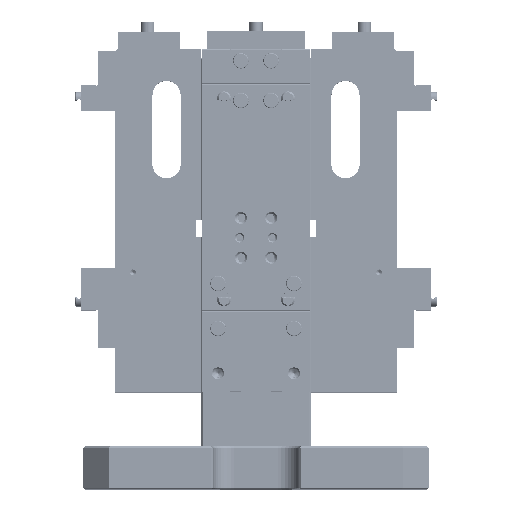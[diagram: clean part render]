
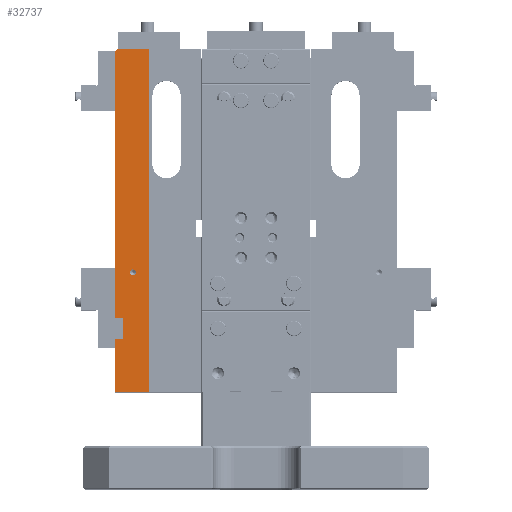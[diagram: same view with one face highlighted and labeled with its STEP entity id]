
A CAD part, top view. The second image highlights one B-rep face of the part: STEP entity #32737.
In plain terms, the highlighted planar face has unit normal (0, 0, 1).
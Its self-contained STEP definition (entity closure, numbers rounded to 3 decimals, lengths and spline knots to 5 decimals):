
#3982=DIRECTION('',(0.,-1.,0.));
#3983=VECTOR('',#3982,0.398);
#3984=CARTESIAN_POINT('',(0.0755,0.5105,-0.137));
#3985=LINE('',#3984,#3983);
#3994=CARTESIAN_POINT('',(0.0575,0.2515,-0.137));
#3995=DIRECTION('',(0.,0.,-1.));
#3996=DIRECTION('',(1.,0.,0.));
#3997=AXIS2_PLACEMENT_3D('',#3994,#3995,#3996);
#3999=CARTESIAN_POINT('',(0.0575,0.2515,-0.137));
#4000=DIRECTION('',(0.,0.,-1.));
#4001=DIRECTION('',(-1.,0.,0.));
#4002=AXIS2_PLACEMENT_3D('',#3999,#4000,#4001);
#4004=DIRECTION('',(1.,0.,0.));
#4005=VECTOR('',#4004,0.01);
#4006=CARTESIAN_POINT('',(0.0365,0.1985,-0.137));
#4007=LINE('',#4006,#4005);
#4008=DIRECTION('',(0.,-1.,0.));
#4009=VECTOR('',#4008,0.3085);
#4010=CARTESIAN_POINT('',(0.0365,0.507,-0.137));
#4011=LINE('',#4010,#4009);
#4012=DIRECTION('',(-0.707,-0.707,0.));
#4013=VECTOR('',#4012,0.00495);
#4014=CARTESIAN_POINT('',(0.04,0.5105,-0.137));
#4015=LINE('',#4014,#4013);
#4016=DIRECTION('',(-1.,0.,0.));
#4017=VECTOR('',#4016,0.0355);
#4018=CARTESIAN_POINT('',(0.0755,0.5105,-0.137));
#4019=LINE('',#4018,#4017);
#4020=DIRECTION('',(1.,0.,0.));
#4021=VECTOR('',#4020,0.039);
#4022=CARTESIAN_POINT('',(0.0365,0.1125,-0.137));
#4023=LINE('',#4022,#4021);
#4024=DIRECTION('',(0.,-1.,0.));
#4025=VECTOR('',#4024,0.062);
#4026=CARTESIAN_POINT('',(0.0365,0.1745,-0.137));
#4027=LINE('',#4026,#4025);
#4028=DIRECTION('',(-1.,0.,0.));
#4029=VECTOR('',#4028,0.01);
#4030=CARTESIAN_POINT('',(0.0465,0.1745,-0.137));
#4031=LINE('',#4030,#4029);
#4084=DIRECTION('',(0.,1.,0.));
#4085=VECTOR('',#4084,0.024);
#4086=CARTESIAN_POINT('',(0.0465,0.1745,-0.137));
#4087=LINE('',#4086,#4085);
#27491=CARTESIAN_POINT('',(0.0465,0.1745,-0.137));
#27492=VERTEX_POINT('',#27491);
#27493=CARTESIAN_POINT('',(0.0365,0.1745,-0.137));
#27494=VERTEX_POINT('',#27493);
#27497=CARTESIAN_POINT('',(0.0365,0.1985,-0.137));
#27498=VERTEX_POINT('',#27497);
#27499=CARTESIAN_POINT('',(0.0465,0.1985,-0.137));
#27500=VERTEX_POINT('',#27499);
#27501=CARTESIAN_POINT('',(0.0365,0.507,-0.137));
#27502=VERTEX_POINT('',#27501);
#27507=CARTESIAN_POINT('',(0.04,0.5105,-0.137));
#27508=VERTEX_POINT('',#27507);
#27513=CARTESIAN_POINT('',(0.0755,0.5105,-0.137));
#27514=VERTEX_POINT('',#27513);
#27585=CARTESIAN_POINT('',(0.0365,0.1125,-0.137));
#27586=VERTEX_POINT('',#27585);
#27587=CARTESIAN_POINT('',(0.0755,0.1125,-0.137));
#27588=VERTEX_POINT('',#27587);
#28003=CARTESIAN_POINT('',(0.054,0.2515,-0.137));
#28004=CARTESIAN_POINT('',(0.061,0.2515,-0.137));
#28005=VERTEX_POINT('',#28003);
#28006=VERTEX_POINT('',#28004);
#32708=CARTESIAN_POINT('',(0.0365,0.1125,-0.137));
#32709=DIRECTION('',(0.,0.,1.));
#32710=DIRECTION('',(1.,0.,0.));
#32711=AXIS2_PLACEMENT_3D('',#32708,#32709,#32710);
#32712=PLANE('',#32711);
#32714=ORIENTED_EDGE('',*,*,#32713,.F.);
#32716=ORIENTED_EDGE('',*,*,#32715,.F.);
#32718=ORIENTED_EDGE('',*,*,#32717,.F.);
#32720=ORIENTED_EDGE('',*,*,#32719,.F.);
#32721=ORIENTED_EDGE('',*,*,#32699,.T.);
#32722=ORIENTED_EDGE('',*,*,#30027,.F.);
#32724=ORIENTED_EDGE('',*,*,#32723,.F.);
#32726=ORIENTED_EDGE('',*,*,#32725,.F.);
#32728=ORIENTED_EDGE('',*,*,#32727,.T.);
#32729=EDGE_LOOP('',(#32714,#32716,#32718,#32720,#32721,#32722,#32724,#32726,
#32728));
#32730=FACE_OUTER_BOUND('',#32729,.F.);
#32732=ORIENTED_EDGE('',*,*,#32731,.F.);
#32734=ORIENTED_EDGE('',*,*,#32733,.F.);
#32735=EDGE_LOOP('',(#32732,#32734));
#32736=FACE_BOUND('',#32735,.F.);
#32737=ADVANCED_FACE('',(#32730,#32736),#32712,.T.);
#3998=CIRCLE('',#3997,0.0035);
#4003=CIRCLE('',#4002,0.0035);
#30027=EDGE_CURVE('',#27586,#27588,#4023,.T.);
#32699=EDGE_CURVE('',#27514,#27588,#3985,.T.);
#32713=EDGE_CURVE('',#27498,#27500,#4007,.T.);
#32715=EDGE_CURVE('',#27502,#27498,#4011,.T.);
#32717=EDGE_CURVE('',#27508,#27502,#4015,.T.);
#32719=EDGE_CURVE('',#27514,#27508,#4019,.T.);
#32723=EDGE_CURVE('',#27494,#27586,#4027,.T.);
#32725=EDGE_CURVE('',#27492,#27494,#4031,.T.);
#32727=EDGE_CURVE('',#27492,#27500,#4087,.T.);
#32731=EDGE_CURVE('',#28006,#28005,#3998,.T.);
#32733=EDGE_CURVE('',#28005,#28006,#4003,.T.);
